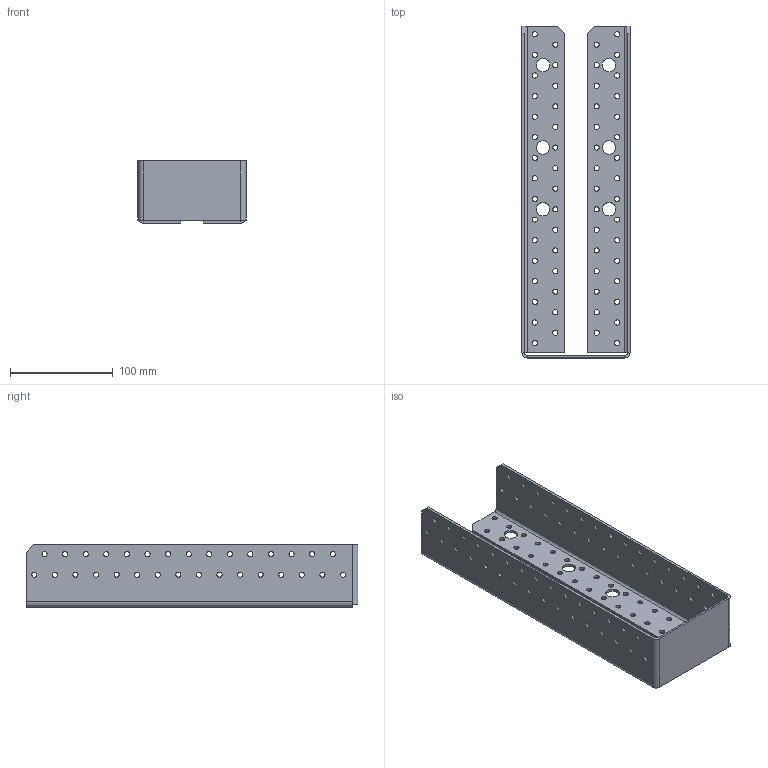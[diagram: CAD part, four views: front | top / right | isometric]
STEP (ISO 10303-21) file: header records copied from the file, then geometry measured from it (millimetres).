
FILE_DESCRIPTION (( 'STEP AP203' ), '1' );
FILE_NAME ('40504IKO.STEP', '2021-04-16T07:44:40', ( '' ), ( '' ), 'SwSTEP 2.0', 'SolidWorks 2013', '' );
FILE_SCHEMA (( 'CONFIG_CONTROL_DESIGN' ));
Length unit declared in the file: millimetre
Products named in the file (1): 40504IKO
Bounding box: 105 x 322.5 x 60.5 mm (x, y, z)
Volume: 162561.6 mm3; surface area: 139890.3 mm2
Topology: 1 solids, 1 shells, 304 faces, 876 edges, 574 vertices
Faces by surface type: cylinder 268, plane 36
Entity records: 10855 total; most frequent: DIRECTION 2024, CARTESIAN_POINT 1755, ORIENTED_EDGE 1752, EDGE_CURVE 876, AXIS2_PLACEMENT_3D 843, VERTEX_POINT 574, EDGE_LOOP 564, CIRCLE 538
